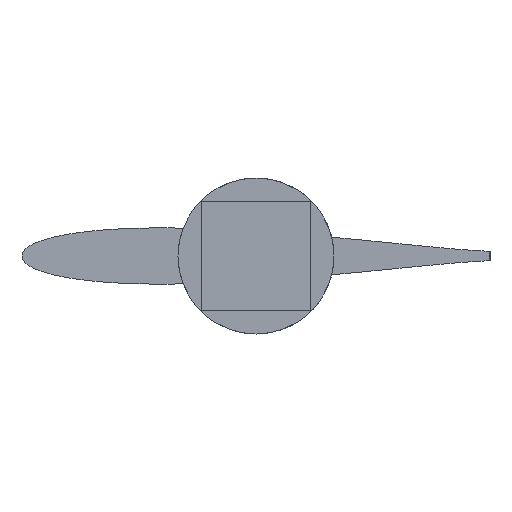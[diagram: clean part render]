
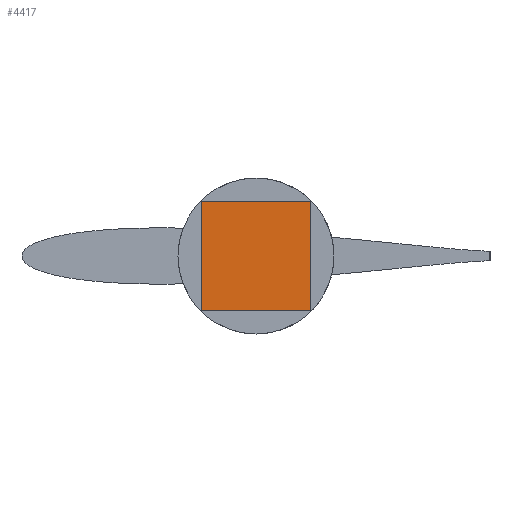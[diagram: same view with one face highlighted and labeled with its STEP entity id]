
A CAD part, left-side view. The second image highlights one B-rep face of the part: STEP entity #4417.
In plain terms, the highlighted planar face has unit normal (-1, 0, 0).
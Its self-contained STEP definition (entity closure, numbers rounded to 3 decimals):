
#4326 = VERTEX_POINT('',#4327);
#4327 = CARTESIAN_POINT('',(0.,18.5,1.5));
#4333 = EDGE_CURVE('',#4334,#4326,#4336,.T.);
#4334 = VERTEX_POINT('',#4335);
#4335 = CARTESIAN_POINT('',(0.,11.5,1.5));
#4336 = LINE('',#4337,#4338);
#4337 = CARTESIAN_POINT('',(0.,11.5,1.5));
#4338 = VECTOR('',#4339,1.);
#4339 = DIRECTION('',(0.,1.,0.));
#4357 = EDGE_CURVE('',#4326,#4358,#4360,.T.);
#4358 = VERTEX_POINT('',#4359);
#4359 = CARTESIAN_POINT('',(0.,18.5,8.5));
#4360 = LINE('',#4361,#4362);
#4361 = CARTESIAN_POINT('',(0.,18.5,1.5));
#4362 = VECTOR('',#4363,1.);
#4363 = DIRECTION('',(0.,0.,1.));
#4381 = EDGE_CURVE('',#4382,#4358,#4384,.T.);
#4382 = VERTEX_POINT('',#4383);
#4383 = CARTESIAN_POINT('',(0.,11.5,8.5));
#4384 = LINE('',#4385,#4386);
#4385 = CARTESIAN_POINT('',(0.,11.5,8.5));
#4386 = VECTOR('',#4387,1.);
#4387 = DIRECTION('',(0.,1.,0.));
#4405 = EDGE_CURVE('',#4334,#4382,#4406,.T.);
#4406 = LINE('',#4407,#4408);
#4407 = CARTESIAN_POINT('',(0.,11.5,1.5));
#4408 = VECTOR('',#4409,1.);
#4409 = DIRECTION('',(0.,0.,1.));
#4417 = ADVANCED_FACE('',(#4418),#4424,.F.);
#4418 = FACE_BOUND('',#4419,.F.);
#4419 = EDGE_LOOP('',(#4420,#4421,#4422,#4423));
#4420 = ORIENTED_EDGE('',*,*,#4405,.F.);
#4421 = ORIENTED_EDGE('',*,*,#4333,.T.);
#4422 = ORIENTED_EDGE('',*,*,#4357,.T.);
#4423 = ORIENTED_EDGE('',*,*,#4381,.F.);
#4424 = PLANE('',#4425);
#4425 = AXIS2_PLACEMENT_3D('',#4426,#4427,#4428);
#4426 = CARTESIAN_POINT('',(0.,11.5,1.5));
#4427 = DIRECTION('',(1.,0.,0.));
#4428 = DIRECTION('',(0.,0.,1.));
